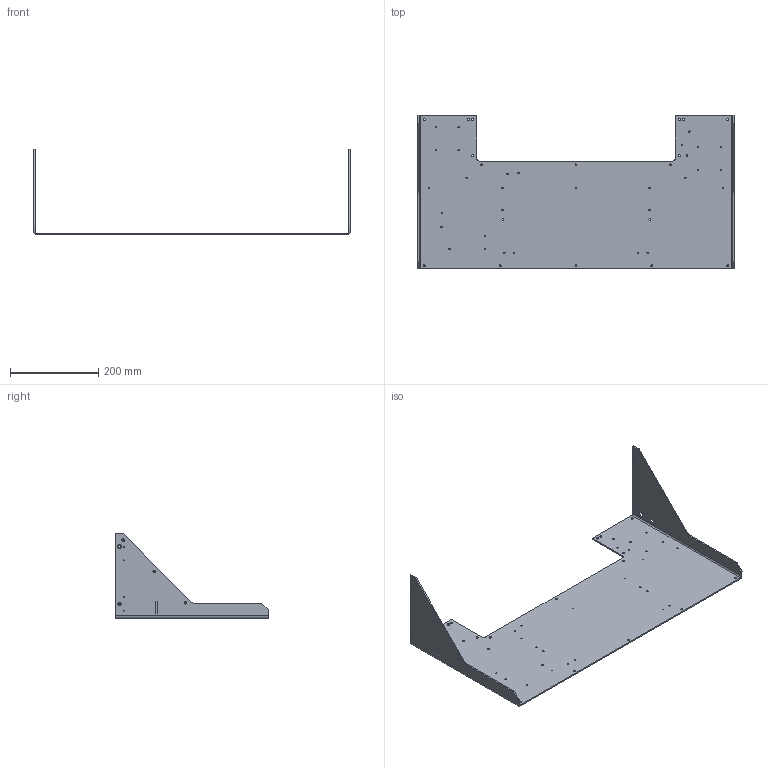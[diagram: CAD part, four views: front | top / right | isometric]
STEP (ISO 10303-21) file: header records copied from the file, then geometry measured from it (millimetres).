
FILE_DESCRIPTION(/* description */ (''),/* implementation_level */ '2;1');
FILE_NAME(/* name */ 'C:/Users/anton/Documents/Kerbal Space Program/Kerbal_Control_Panel/KCP2/CAD/ForManufacture/casing/Panel_BottomPlate_v96_Folded.step',/* time_stamp */ '2020-11-15T22:22:37-08:00',/* author */ (''),/* organization */ (''),/* preprocessor_version */ 'ST-DEVELOPER v18.1',/* originating_system */ 'Autodesk Translation Framework v9.3.0.1241',/* authorisation */ '');
FILE_SCHEMA (('AUTOMOTIVE_DESIGN { 1 0 10303 214 3 1 1 }'));
Length unit declared in the file: millimetre
Products named in the file (1): Bottom Plate
Bounding box: 717 x 346.63 x 192.8 mm (x, y, z)
Volume: 754178.8 mm3; surface area: 514477 mm2
Topology: 1 solids, 1 shells, 180 faces, 462 edges, 284 vertices
Faces by surface type: cylinder 88, cone 56, plane 36
Full cylindrical faces by diameter (mm): 2.529 x7, 3.264 x12, 3.4 x24, 3.5 x2, 4.496 x20, 13 x1
Entity records: 5879 total; most frequent: DIRECTION 1056, CARTESIAN_POINT 927, ORIENTED_EDGE 924, EDGE_CURVE 462, AXIS2_PLACEMENT_3D 413, EDGE_LOOP 316, VERTEX_POINT 284, CIRCLE 232
